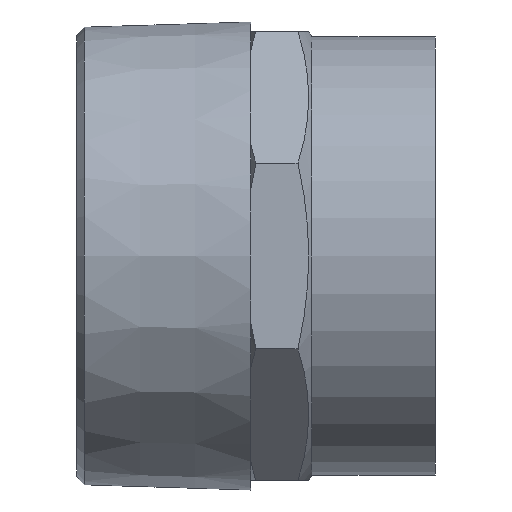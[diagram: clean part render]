
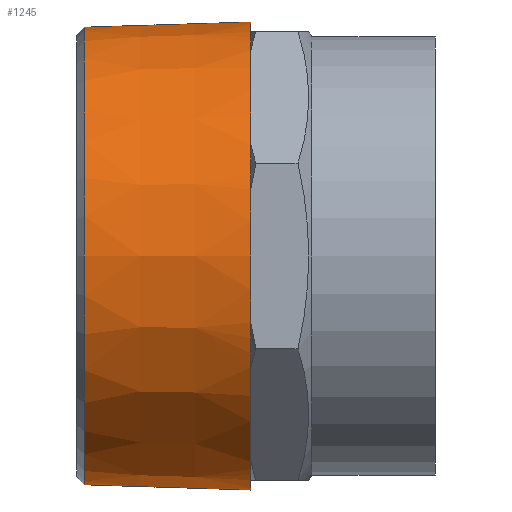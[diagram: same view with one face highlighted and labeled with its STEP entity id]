
A CAD part, front view. The second image highlights one B-rep face of the part: STEP entity #1245.
In plain terms, the highlighted conical face has half-angle 1.79 degrees and reference radius 43.821 mm.
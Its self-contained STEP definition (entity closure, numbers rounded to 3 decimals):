
#73=CARTESIAN_POINT('',(33.0,42.5,-12.627));
#74=VERTEX_POINT('',#73);
#75=CARTESIAN_POINT('',(33.0,42.5,12.627));
#76=VERTEX_POINT('',#75);
#77=CARTESIAN_POINT('',(33.0,0.0,0.0));
#78=DIRECTION('',(1.0,0.0,0.0));
#79=DIRECTION('',(0.0,1.0,0.0));
#80=AXIS2_PLACEMENT_3D('',#77,#78,#79);
#81=CIRCLE('',#80,44.336);
#82=EDGE_CURVE('',#74,#76,#81,.T.);
#98=CARTESIAN_POINT('',(33.,21.123,-38.981));
#99=VERTEX_POINT('',#98);
#100=CARTESIAN_POINT('',(33.0,38.981,-21.123));
#101=VERTEX_POINT('',#100);
#102=CARTESIAN_POINT('',(33.0,0.0,0.0));
#103=DIRECTION('',(1.0,0.0,0.0));
#104=DIRECTION('',(0.0,1.0,0.0));
#105=AXIS2_PLACEMENT_3D('',#102,#103,#104);
#106=CIRCLE('',#105,44.336);
#107=EDGE_CURVE('',#99,#101,#106,.T.);
#123=CARTESIAN_POINT('',(33.0,-12.627,-42.5));
#124=VERTEX_POINT('',#123);
#125=CARTESIAN_POINT('',(33.0,12.627,-42.5));
#126=VERTEX_POINT('',#125);
#127=CARTESIAN_POINT('',(33.0,0.0,0.0));
#128=DIRECTION('',(1.0,0.0,0.0));
#129=DIRECTION('',(0.0,1.0,0.0));
#130=AXIS2_PLACEMENT_3D('',#127,#128,#129);
#131=CIRCLE('',#130,44.336);
#132=EDGE_CURVE('',#124,#126,#131,.T.);
#148=CARTESIAN_POINT('',(33.,-38.981,-21.123));
#149=VERTEX_POINT('',#148);
#150=CARTESIAN_POINT('',(33.0,-21.123,-38.981));
#151=VERTEX_POINT('',#150);
#152=CARTESIAN_POINT('',(33.0,0.0,0.0));
#153=DIRECTION('',(1.0,0.0,0.0));
#154=DIRECTION('',(0.0,1.0,0.0));
#155=AXIS2_PLACEMENT_3D('',#152,#153,#154);
#156=CIRCLE('',#155,44.336);
#157=EDGE_CURVE('',#149,#151,#156,.T.);
#173=CARTESIAN_POINT('',(33.0,-42.5,12.627));
#174=VERTEX_POINT('',#173);
#175=CARTESIAN_POINT('',(33.0,-42.5,-12.627));
#176=VERTEX_POINT('',#175);
#177=CARTESIAN_POINT('',(33.0,0.0,0.0));
#178=DIRECTION('',(1.0,0.0,0.0));
#179=DIRECTION('',(0.0,1.0,0.0));
#180=AXIS2_PLACEMENT_3D('',#177,#178,#179);
#181=CIRCLE('',#180,44.336);
#182=EDGE_CURVE('',#174,#176,#181,.T.);
#198=CARTESIAN_POINT('',(33.,-21.123,38.981));
#199=VERTEX_POINT('',#198);
#200=CARTESIAN_POINT('',(33.0,-38.981,21.123));
#201=VERTEX_POINT('',#200);
#202=CARTESIAN_POINT('',(33.0,0.0,0.0));
#203=DIRECTION('',(1.0,0.0,0.0));
#204=DIRECTION('',(0.0,1.0,0.0));
#205=AXIS2_PLACEMENT_3D('',#202,#203,#204);
#206=CIRCLE('',#205,44.336);
#207=EDGE_CURVE('',#199,#201,#206,.T.);
#223=CARTESIAN_POINT('',(33.,38.981,21.123));
#224=VERTEX_POINT('',#223);
#225=CARTESIAN_POINT('',(33.0,21.123,38.981));
#226=VERTEX_POINT('',#225);
#227=CARTESIAN_POINT('',(33.0,0.0,0.0));
#228=DIRECTION('',(1.0,0.0,0.0));
#229=DIRECTION('',(0.0,1.0,0.0));
#230=AXIS2_PLACEMENT_3D('',#227,#228,#229);
#231=CIRCLE('',#230,44.336);
#232=EDGE_CURVE('',#224,#226,#231,.T.);
#734=CARTESIAN_POINT('',(33.0,-12.627,42.5));
#735=VERTEX_POINT('',#734);
#749=CARTESIAN_POINT('',(33.0,0.0,0.0));
#750=DIRECTION('',(1.0,0.0,0.0));
#751=DIRECTION('',(0.0,1.0,0.0));
#752=AXIS2_PLACEMENT_3D('',#749,#750,#751);
#753=CIRCLE('',#752,44.336);
#754=EDGE_CURVE('',#735,#199,#753,.T.);
#773=CARTESIAN_POINT('',(33.0,0.0,0.0));
#774=DIRECTION('',(1.0,0.0,0.0));
#775=DIRECTION('',(0.0,1.0,0.0));
#776=AXIS2_PLACEMENT_3D('',#773,#774,#775);
#777=CIRCLE('',#776,44.336);
#778=EDGE_CURVE('',#201,#174,#777,.T.);
#797=CARTESIAN_POINT('',(33.0,0.0,0.0));
#798=DIRECTION('',(1.0,0.0,0.0));
#799=DIRECTION('',(0.0,1.0,0.0));
#800=AXIS2_PLACEMENT_3D('',#797,#798,#799);
#801=CIRCLE('',#800,44.336);
#802=EDGE_CURVE('',#176,#149,#801,.T.);
#821=CARTESIAN_POINT('',(33.0,0.0,0.0));
#822=DIRECTION('',(1.0,0.0,0.0));
#823=DIRECTION('',(0.0,1.0,0.0));
#824=AXIS2_PLACEMENT_3D('',#821,#822,#823);
#825=CIRCLE('',#824,44.336);
#826=EDGE_CURVE('',#151,#124,#825,.T.);
#845=CARTESIAN_POINT('',(33.0,0.0,0.0));
#846=DIRECTION('',(1.0,0.0,0.0));
#847=DIRECTION('',(0.0,1.0,0.0));
#848=AXIS2_PLACEMENT_3D('',#845,#846,#847);
#849=CIRCLE('',#848,44.336);
#850=EDGE_CURVE('',#126,#99,#849,.T.);
#869=CARTESIAN_POINT('',(33.0,0.0,0.0));
#870=DIRECTION('',(1.0,0.0,0.0));
#871=DIRECTION('',(0.0,1.0,0.0));
#872=AXIS2_PLACEMENT_3D('',#869,#870,#871);
#873=CIRCLE('',#872,44.336);
#874=EDGE_CURVE('',#101,#74,#873,.T.);
#893=CARTESIAN_POINT('',(33.0,0.0,0.0));
#894=DIRECTION('',(1.0,0.0,0.0));
#895=DIRECTION('',(0.0,1.0,0.0));
#896=AXIS2_PLACEMENT_3D('',#893,#894,#895);
#897=CIRCLE('',#896,44.336);
#898=EDGE_CURVE('',#76,#224,#897,.T.);
#1041=CARTESIAN_POINT('',(33.0,12.627,42.5));
#1042=VERTEX_POINT('',#1041);
#1095=CARTESIAN_POINT('',(33.0,0.0,0.0));
#1096=DIRECTION('',(1.0,0.0,0.0));
#1097=DIRECTION('',(0.0,1.0,0.0));
#1098=AXIS2_PLACEMENT_3D('',#1095,#1096,#1097);
#1099=CIRCLE('',#1098,44.336);
#1100=EDGE_CURVE('',#1042,#735,#1099,.T.);
#1181=CARTESIAN_POINT('',(1.499,43.352,0.));
#1182=VERTEX_POINT('',#1181);
#1183=CARTESIAN_POINT('',(1.499,0.0,0.));
#1184=DIRECTION('',(-1.0,0.0,0.0));
#1185=DIRECTION('',(0.0,-1.0,0.0));
#1186=AXIS2_PLACEMENT_3D('',#1183,#1184,#1185);
#1187=CIRCLE('',#1186,43.352);
#1188=EDGE_CURVE('',#1182,#1182,#1187,.T.);
#1213=CARTESIAN_POINT('',(16.5,0.0,0.0));
#1214=DIRECTION('',(1.0,0.0,0.0));
#1215=DIRECTION('',(0.0,1.0,0.0));
#1216=AXIS2_PLACEMENT_3D('',#1213,#1214,#1215);
#1217=CONICAL_SURFACE('',#1216,43.821,1.79);
#1218=ORIENTED_EDGE('',*,*,#754,.F.);
#1219=ORIENTED_EDGE('',*,*,#1100,.F.);
#1220=CARTESIAN_POINT('',(33.0,0.0,0.0));
#1221=DIRECTION('',(1.0,0.0,0.0));
#1222=DIRECTION('',(0.0,1.0,0.0));
#1223=AXIS2_PLACEMENT_3D('',#1220,#1221,#1222);
#1224=CIRCLE('',#1223,44.336);
#1225=EDGE_CURVE('',#226,#1042,#1224,.T.);
#1226=ORIENTED_EDGE('',*,*,#1225,.F.);
#1227=ORIENTED_EDGE('',*,*,#232,.F.);
#1228=ORIENTED_EDGE('',*,*,#898,.F.);
#1229=ORIENTED_EDGE('',*,*,#82,.F.);
#1230=ORIENTED_EDGE('',*,*,#874,.F.);
#1231=ORIENTED_EDGE('',*,*,#107,.F.);
#1232=ORIENTED_EDGE('',*,*,#850,.F.);
#1233=ORIENTED_EDGE('',*,*,#132,.F.);
#1234=ORIENTED_EDGE('',*,*,#826,.F.);
#1235=ORIENTED_EDGE('',*,*,#157,.F.);
#1236=ORIENTED_EDGE('',*,*,#802,.F.);
#1237=ORIENTED_EDGE('',*,*,#182,.F.);
#1238=ORIENTED_EDGE('',*,*,#778,.F.);
#1239=ORIENTED_EDGE('',*,*,#207,.F.);
#1240=EDGE_LOOP('',(#1218,#1219,#1226,#1227,#1228,#1229,#1230,#1231,#1232,#1233,#1234,#1235,#1236,#1237,#1238,#1239));
#1241=FACE_OUTER_BOUND('',#1240,.T.);
#1242=ORIENTED_EDGE('',*,*,#1188,.F.);
#1243=EDGE_LOOP('',(#1242));
#1244=FACE_BOUND('',#1243,.T.);
#1245=ADVANCED_FACE('',(#1241,#1244),#1217,.T.);
